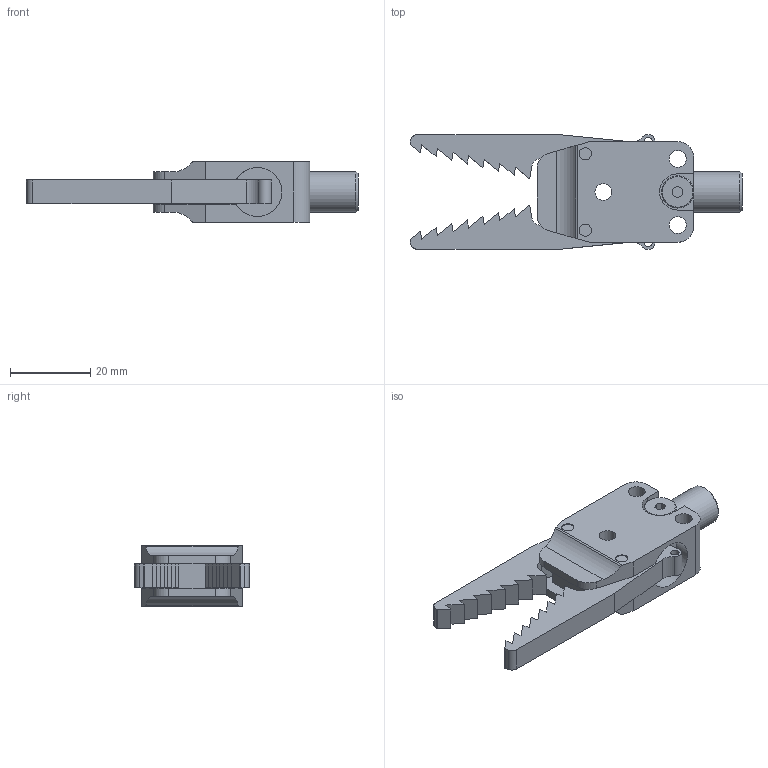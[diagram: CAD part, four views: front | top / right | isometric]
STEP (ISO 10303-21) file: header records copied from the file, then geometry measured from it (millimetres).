
FILE_DESCRIPTION(('STEP AP214'),'1');
FILE_NAME('CA.GZA.10.12.19.stp','2020-04-17T12:25:54',(' '),(' '),'Spatial InterOp 3D',' ',' ');
FILE_SCHEMA(('AUTOMOTIVE_DESIGN { 1 0 10303 214 1 1 1 1 }'));
Length unit declared in the file: millimetre
Products named in the file (3): CA.GZA.10.12.19; GZA.10.12.19; GZA.10.12.1.L (derivato)
Assembly tree (3 placements, depth 2):
  CA.GZA.10.12.19
    GZA.10.12.19  x2
    GZA.10.12.1.L (derivato)
Bounding box: 82.6 x 28.73 x 15 mm (x, y, z)
Volume: 14867.3 mm3; surface area: 8803.3 mm2
Topology: 3 solids, 4 shells, 145 faces, 393 edges, 261 vertices
Faces by surface type: plane 90, cylinder 50, cone 5
Full cylindrical faces by diameter (mm): 2.05 x2, 3.05 x8, 4.2 x5, 8 x1, 10 x1, 12.2 x2
Entity records: 4303 total; most frequent: CARTESIAN_POINT 589, DIRECTION 567, ORIENTED_EDGE 518, EDGE_CURVE 259, AXIS2_PLACEMENT_3D 196, VERTEX_POINT 184, LINE 175, VECTOR 175
